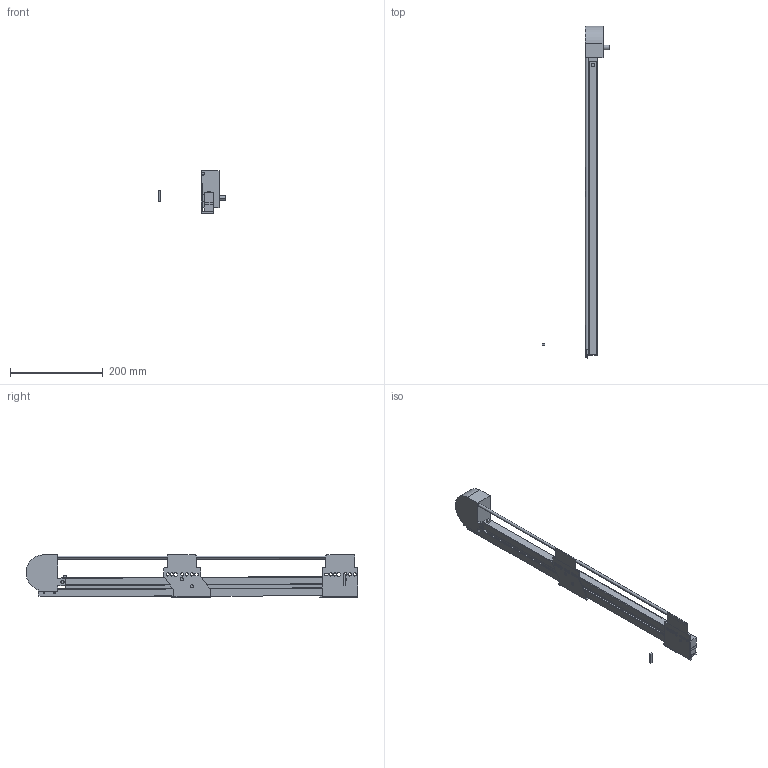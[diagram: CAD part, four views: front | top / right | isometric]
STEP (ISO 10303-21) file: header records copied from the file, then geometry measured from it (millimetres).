
FILE_DESCRIPTION (( 'STEP AP214' ), '1' );
FILE_NAME ('_IMOS_NOVA-Pro_Sensotronic_KS_P907_LI_NL-650_EB29mm.step', '2010-07-23T08:20:11', ( 'grass' ), ( '' ), 'SwSTEP 2.0', 'SolidWorks 2009', '' );
FILE_SCHEMA (( 'AUTOMOTIVE_DESIGN' ));
Length unit declared in the file: millimetre
Products named in the file (1): _IMOS_NOVA-Pro_Sensotronic_KS_P907_LI_NL-650_EB29mm
Bounding box: 145.8 x 716.65 x 92.23 mm (x, y, z)
Volume: 671447.8 mm3; surface area: 163663.8 mm2
Topology: 3 solids, 3 shells, 160 faces, 452 edges, 300 vertices
Faces by surface type: plane 96, cylinder 64
Entity records: 5323 total; most frequent: CARTESIAN_POINT 937, ORIENTED_EDGE 904, DIRECTION 893, EDGE_CURVE 452, LINE 317, VECTOR 317, VERTEX_POINT 300, AXIS2_PLACEMENT_3D 288
